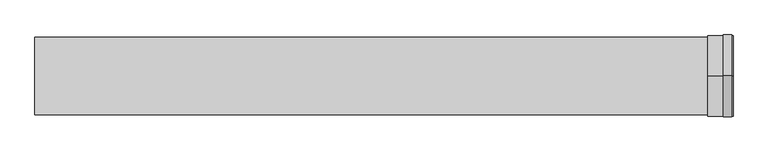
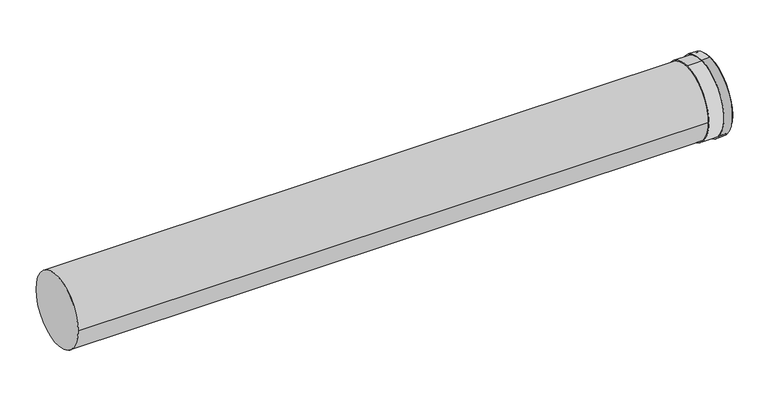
"""IFC4 building model written with IfcOpenShell, lengths in millimetres: duct fitting geometry, DERS_431_LFT_UN_Twinline Extension_M&G : ø130-150-200."""

from ifc_helpers import new_model, si_unit, point, frame, origin, origin_2d, place, context, project, spatial, polyline, circle_curve, trimmed, segment, composite_curve, outline, extrude, source, transform, mapped, element, save
from ifc_brep_helpers import plane_surface, cylinder_surface, revolved_surface, advanced_brep


def duct_fitting_1957377e(model_context):
    return source(origin(), model_context, "Body", "SolidModel", [
        extrude(outline(composite_curve([segment(trimmed(circle_curve(origin_2d(), 106.0), [point((0.0, 106.0))], [point((0.0, -106.0))], False, "CARTESIAN"), True, "CONTINUOUS"), segment(trimmed(circle_curve(origin_2d(), 106.0), [point((0.0, -106.0))], [point((0.0, 106.0))], False, "CARTESIAN"), True, "CONTINUOUS")], self_intersect=False), holes=[composite_curve([segment(trimmed(circle_curve(origin_2d(), 103.0), [point((0.0, -103.0))], [point((0.0, 103.0))], True, "CARTESIAN"), True, "CONTINUOUS"), segment(trimmed(circle_curve(origin_2d(), 103.0), [point((0.0, 103.0))], [point((0.0, -103.0))], True, "CARTESIAN"), True, "CONTINUOUS")], self_intersect=False)]), frame((1768.126638, 0.0, 0.0), z_axis=(1.0, 0.0, 0.0), x_axis=(0.0, 1.0, 0.0)), (0.0, 0.0, 1.0), 22.5),
        advanced_brep(
        [(1793.626638, 0.0, -103.0), (1793.626638, 0.0, 103.0), (1793.626638, 0.0, 99.0), (1793.626638, 0.0, -99.0), (1728.626638, 0.0, -103.0), (1728.626638, 0.0, 103.0), (1733.626638, 0.0, -99.0), (1733.626638, 0.0, 99.0)],
        [
            (0, 1, circle_curve(frame((1793.626638, 0.0, 0.0), z_axis=(1.0, 0.0, 0.0), x_axis=(0.0, 0.0, 1.0)), 103.0)),
            (1, 0, circle_curve(frame((1793.626638, 0.0, 0.0), z_axis=(1.0, 0.0, 0.0), x_axis=(0.0, 0.0, 1.0)), 103.0)),
            (2, 3, circle_curve(frame((1793.626638, 0.0, 0.0), z_axis=(-1.0, 0.0, 0.0), x_axis=(0.0, 0.0, 1.0)), 99.0)),
            (3, 2, circle_curve(frame((1793.626638, 0.0, 0.0), z_axis=(-1.0, 0.0, 0.0), x_axis=(0.0, 0.0, 1.0)), 99.0)),
            (4, 5, circle_curve(frame((1728.626638, 0.0, 0.0), z_axis=(-1.0, 0.0, 0.0), x_axis=(0.0, 0.0, 1.0)), 103.0)),
            (5, 4, circle_curve(frame((1728.626638, 0.0, 0.0), z_axis=(-1.0, 0.0, 0.0), x_axis=(0.0, 0.0, 1.0)), 103.0)),
            (0, 4),
            (5, 1),
            (6, 7, circle_curve(frame((1733.626638, 0.0, 0.0), z_axis=(1.0, 0.0, 0.0), x_axis=(0.0, 0.0, 1.0)), 99.0)),
            (7, 6, circle_curve(frame((1733.626638, 0.0, 0.0), z_axis=(1.0, 0.0, 0.0), x_axis=(0.0, 0.0, 1.0)), 99.0)),
            (6, 3),
            (2, 7),
        ],
        [
            plane_surface(frame((1793.626638, 0.0, 103.0), z_axis=(1.0, 0.0, 0.0), x_axis=(0.0, -1.0, 0.0))),
            plane_surface(frame((1728.626638, 0.0, 103.0), z_axis=(-1.0, 0.0, 0.0), x_axis=(0.0, 1.0, 0.0))),
            cylinder_surface(frame((1728.626638, 0.0, 0.0), z_axis=(1.0, 0.0, 0.0), x_axis=(0.0, 0.0, 1.0)), 103.0),
            plane_surface(frame((1733.626638, 0.0, 99.0), z_axis=(1.0, 0.0, 0.0), x_axis=(0.0, 1.0, 0.0))),
            revolved_surface(polyline([(1793.626638, 0.0, 99.0), (1733.626638, 0.0, 99.0)]), (1733.626638, 0.0, 0.0), (1.0, 0.0, 0.0)),
        ],
        [
            (0, [[1, 2], [3, 4]]),
            (1, [[5, 6]]),
            (2, [[-1, 7, -6, 8]]),
            (2, [[-2, -8, -5, -7]]),
            (3, [[9, 10]]),
            (4, [[-9, 11, -3, 12]]),
            (4, [[-10, -12, -4, -11]]),
        ],
    ),
        extrude(outline(composite_curve([segment(trimmed(circle_curve(origin_2d(), 100.0), [point((100.0, 0.0))], [point((-100.0, 0.0))], False, "CARTESIAN"), True, "CONTINUOUS"), segment(trimmed(circle_curve(origin_2d(), 100.0), [point((-100.0, 0.0))], [point((100.0, 0.0))], False, "CARTESIAN"), True, "CONTINUOUS")], self_intersect=False)), frame((-2.39e-05, 0.0, 0.0), z_axis=(1.0, 0.0, 0.0), x_axis=(0.0, 1.0, 0.0)), (0.0, 0.0, 1.0), 1733.626638),
    ])


if __name__ == "__main__":
    model = new_model("IFC4")
    model_context = context("Model", 3, world=origin())
    ifc_project = project(units=[si_unit("LENGTHUNIT", "METRE", prefix="MILLI")], contexts=[model_context])
    site = spatial("IfcSite", under=ifc_project)
    building = spatial("IfcBuilding", under=site)
    placement = place(None, origin())
    duct_fitting_shape = duct_fitting_1957377e(model_context)
    element("IfcDuctFitting", 1, ObjectType="DERS_431_LFT_UN_Twinline Extension_M&G : ø130-150-200", at=placement, inside=building, context=model_context, shape_type="MappedRepresentation", body=[
        mapped(duct_fitting_shape, transform((0.0, 0.0, 0.0), x_axis=(1.0, 0.0, 0.0), y_axis=(0.0, 1.0, 0.0), z_axis=(0.0, 0.0, 1.0))),
    ])
    save(model, "model.ifc")
